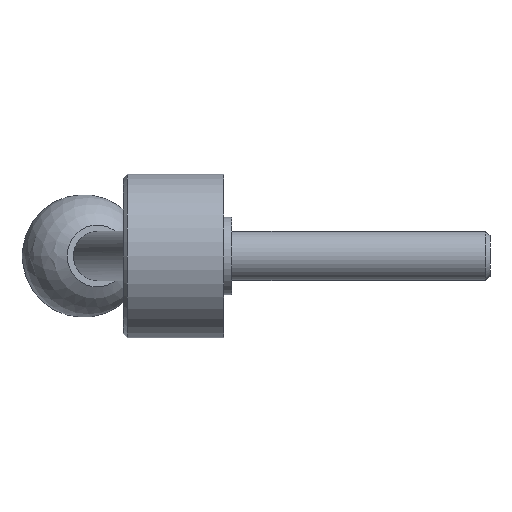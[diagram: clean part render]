
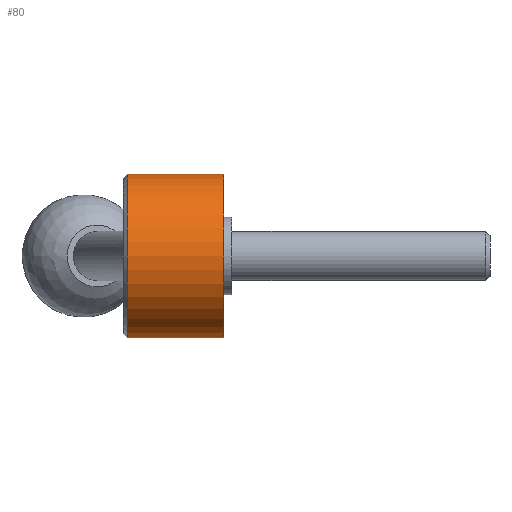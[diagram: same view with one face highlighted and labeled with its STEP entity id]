
A CAD part, left-side view. The second image highlights one B-rep face of the part: STEP entity #80.
In plain terms, the highlighted cylindrical face has radius 20 mm (diameter 40 mm), a full revolution.
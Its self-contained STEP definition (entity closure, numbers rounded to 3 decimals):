
#80 = ADVANCED_FACE( '', ( #106, #107, #108 ), #109, .T. );
#106 = FACE_OUTER_BOUND( '', #150, .T. );
#107 = FACE_BOUND( '', #151, .T. );
#108 = FACE_OUTER_BOUND( '', #152, .T. );
#109 = CYLINDRICAL_SURFACE( '', #153, 20. );
#150 = EDGE_LOOP( '', ( #204 ) );
#151 = EDGE_LOOP( '', ( #205 ) );
#152 = EDGE_LOOP( '', ( #206 ) );
#153 = AXIS2_PLACEMENT_3D( '', #207, #208, #209 );
#204 = ORIENTED_EDGE( '', *, *, #258, .F. );
#205 = ORIENTED_EDGE( '', *, *, #259, .F. );
#206 = ORIENTED_EDGE( '', *, *, #260, .T. );
#207 = CARTESIAN_POINT( '', ( 0., 0., 0. ) );
#208 = DIRECTION( '', ( 0., 1., 0. ) );
#209 = DIRECTION( '', ( 0., 0., -1. ) );
#258 = EDGE_CURVE( '', #278, #278, #279, .T. );
#259 = EDGE_CURVE( '', #280, #280, #281, .T. );
#260 = EDGE_CURVE( '', #282, #282, #283, .T. );
#278 = VERTEX_POINT( '', #306 );
#279 = CIRCLE( '', #307, 20. );
#280 = VERTEX_POINT( '', #308 );
#281 = B_SPLINE_CURVE_WITH_KNOTS( '', 3, ( #309, #310, #311, #312, #313, #314, #315, #316, #317, #318, #319, #320, #321, #322, #323, #324, #325, #326, #327, #328, #329, #330, #331, #332, #333, #334, #335, #336, #337, #338, #339, #340, #341, #342, #343, #344, #345, #346, #347, #348, #349, #350, #351, #352, #353, #354, #355, #356, #357, #358, #359, #360, #361, #362, #363, #364, #365, #366, #367, #368, #369, #370, #371, #372, #373, #374, #375, #376, #377, #378, #379, #380, #381, #382, #383, #384, #385, #386, #387, #388, #389, #390, #391, #392 ), .UNSPECIFIED., .T., .F., ( 2, 2, 2, 2, 2, 2, 2, 2, 2, 2, 2, 2, 2, 2, 2, 2, 2, 2, 2, 2, 2, 2, 2, 2, 2, 2, 2, 2, 2, 2, 2, 2, 2, 2, 2, 2, 2, 2, 2, 2, 2, 2, 2, 2 ), ( -0.001, 0., 0.001, 0.002, 0.002, 0.004, 0.004, 0.005, 0.006, 0.007, 0.008, 0.008, 0.009, 0.011, 0.012, 0.013, 0.014, 0.014, 0.015, 0.017, 0.018, 0.018, 0.019, 0.02, 0.021, 0.022, 0.024, 0.024, 0.025, 0.026, 0.027, 0.028, 0.028, 0.029, 0.03, 0.031, 0.032, 0.033, 0.034, 0.034, 0.035, 0.037, 0.038, 0.039 ), .UNSPECIFIED. );
#282 = VERTEX_POINT( '', #393 );
#283 = CIRCLE( '', #394, 20. );
#306 = CARTESIAN_POINT( '', ( 0., 2., -20. ) );
#307 = AXIS2_PLACEMENT_3D( '', #422, #423, #424 );
#308 = CARTESIAN_POINT( '', ( 19.079, 16., 6. ) );
#309 = CARTESIAN_POINT( '', ( 19.079, 16.399, 6. ) );
#310 = CARTESIAN_POINT( '', ( 19.079, 15.601, 6. ) );
#311 = CARTESIAN_POINT( '', ( 19.091, 15.209, 5.961 ) );
#312 = CARTESIAN_POINT( '', ( 19.127, 14.632, 5.845 ) );
#313 = CARTESIAN_POINT( '', ( 19.141, 14.441, 5.797 ) );
#314 = CARTESIAN_POINT( '', ( 19.176, 14.063, 5.682 ) );
#315 = CARTESIAN_POINT( '', ( 19.196, 13.876, 5.615 ) );
#316 = CARTESIAN_POINT( '', ( 19.261, 13.332, 5.388 ) );
#317 = CARTESIAN_POINT( '', ( 19.312, 12.988, 5.204 ) );
#318 = CARTESIAN_POINT( '', ( 19.396, 12.5, 4.878 ) );
#319 = CARTESIAN_POINT( '', ( 19.426, 12.342, 4.76 ) );
#320 = CARTESIAN_POINT( '', ( 19.485, 12.039, 4.511 ) );
#321 = CARTESIAN_POINT( '', ( 19.515, 11.894, 4.38 ) );
#322 = CARTESIAN_POINT( '', ( 19.605, 11.482, 3.967 ) );
#323 = CARTESIAN_POINT( '', ( 19.664, 11.234, 3.667 ) );
#324 = CARTESIAN_POINT( '', ( 19.775, 10.796, 3.011 ) );
#325 = CARTESIAN_POINT( '', ( 19.825, 10.611, 2.666 ) );
#326 = CARTESIAN_POINT( '', ( 19.888, 10.386, 2.125 ) );
#327 = CARTESIAN_POINT( '', ( 19.906, 10.319, 1.941 ) );
#328 = CARTESIAN_POINT( '', ( 19.94, 10.204, 1.564 ) );
#329 = CARTESIAN_POINT( '', ( 19.954, 10.155, 1.37 ) );
#330 = CARTESIAN_POINT( '', ( 19.988, 10.039, 0.789 ) );
#331 = CARTESIAN_POINT( '', ( 20., 10., 0.398 ) );
#332 = CARTESIAN_POINT( '', ( 20., 10., -0.39 ) );
#333 = CARTESIAN_POINT( '', ( 19.988, 10.039, -0.79 ) );
#334 = CARTESIAN_POINT( '', ( 19.943, 10.193, -1.562 ) );
#335 = CARTESIAN_POINT( '', ( 19.909, 10.308, -1.937 ) );
#336 = CARTESIAN_POINT( '', ( 19.825, 10.611, -2.666 ) );
#337 = CARTESIAN_POINT( '', ( 19.774, 10.797, -3.014 ) );
#338 = CARTESIAN_POINT( '', ( 19.692, 11.122, -3.499 ) );
#339 = CARTESIAN_POINT( '', ( 19.664, 11.239, -3.656 ) );
#340 = CARTESIAN_POINT( '', ( 19.605, 11.487, -3.958 ) );
#341 = CARTESIAN_POINT( '', ( 19.575, 11.62, -4.105 ) );
#342 = CARTESIAN_POINT( '', ( 19.485, 12.035, -4.52 ) );
#343 = CARTESIAN_POINT( '', ( 19.425, 12.335, -4.767 ) );
#344 = CARTESIAN_POINT( '', ( 19.313, 12.983, -5.201 ) );
#345 = CARTESIAN_POINT( '', ( 19.261, 13.335, -5.39 ) );
#346 = CARTESIAN_POINT( '', ( 19.174, 14.058, -5.69 ) );
#347 = CARTESIAN_POINT( '', ( 19.139, 14.432, -5.805 ) );
#348 = CARTESIAN_POINT( '', ( 19.103, 15.013, -5.921 ) );
#349 = CARTESIAN_POINT( '', ( 19.094, 15.211, -5.951 ) );
#350 = CARTESIAN_POINT( '', ( 19.082, 15.604, -5.99 ) );
#351 = CARTESIAN_POINT( '', ( 19.079, 15.801, -6. ) );
#352 = CARTESIAN_POINT( '', ( 19.079, 16.39, -6. ) );
#353 = CARTESIAN_POINT( '', ( 19.091, 16.784, -5.962 ) );
#354 = CARTESIAN_POINT( '', ( 19.139, 17.564, -5.806 ) );
#355 = CARTESIAN_POINT( '', ( 19.174, 17.939, -5.692 ) );
#356 = CARTESIAN_POINT( '', ( 19.26, 18.662, -5.391 ) );
#357 = CARTESIAN_POINT( '', ( 19.313, 19.013, -5.203 ) );
#358 = CARTESIAN_POINT( '', ( 19.424, 19.662, -4.769 ) );
#359 = CARTESIAN_POINT( '', ( 19.484, 19.963, -4.522 ) );
#360 = CARTESIAN_POINT( '', ( 19.574, 20.379, -4.107 ) );
#361 = CARTESIAN_POINT( '', ( 19.605, 20.512, -3.96 ) );
#362 = CARTESIAN_POINT( '', ( 19.663, 20.76, -3.658 ) );
#363 = CARTESIAN_POINT( '', ( 19.692, 20.876, -3.502 ) );
#364 = CARTESIAN_POINT( '', ( 19.774, 21.201, -3.017 ) );
#365 = CARTESIAN_POINT( '', ( 19.824, 21.387, -2.672 ) );
#366 = CARTESIAN_POINT( '', ( 19.909, 21.691, -1.94 ) );
#367 = CARTESIAN_POINT( '', ( 19.942, 21.806, -1.565 ) );
#368 = CARTESIAN_POINT( '', ( 19.977, 21.921, -0.988 ) );
#369 = CARTESIAN_POINT( '', ( 19.985, 21.951, -0.794 ) );
#370 = CARTESIAN_POINT( '', ( 19.997, 21.99, -0.399 ) );
#371 = CARTESIAN_POINT( '', ( 20., 22., -0.199 ) );
#372 = CARTESIAN_POINT( '', ( 20., 22., 0.394 ) );
#373 = CARTESIAN_POINT( '', ( 19.988, 21.961, 0.785 ) );
#374 = CARTESIAN_POINT( '', ( 19.954, 21.846, 1.365 ) );
#375 = CARTESIAN_POINT( '', ( 19.94, 21.798, 1.558 ) );
#376 = CARTESIAN_POINT( '', ( 19.907, 21.682, 1.937 ) );
#377 = CARTESIAN_POINT( '', ( 19.888, 21.616, 2.122 ) );
#378 = CARTESIAN_POINT( '', ( 19.825, 21.39, 2.664 ) );
#379 = CARTESIAN_POINT( '', ( 19.775, 21.206, 3.009 ) );
#380 = CARTESIAN_POINT( '', ( 19.664, 20.767, 3.665 ) );
#381 = CARTESIAN_POINT( '', ( 19.605, 20.519, 3.966 ) );
#382 = CARTESIAN_POINT( '', ( 19.515, 20.107, 4.379 ) );
#383 = CARTESIAN_POINT( '', ( 19.485, 19.962, 4.51 ) );
#384 = CARTESIAN_POINT( '', ( 19.426, 19.659, 4.759 ) );
#385 = CARTESIAN_POINT( '', ( 19.397, 19.501, 4.877 ) );
#386 = CARTESIAN_POINT( '', ( 19.313, 19.013, 5.204 ) );
#387 = CARTESIAN_POINT( '', ( 19.261, 18.669, 5.388 ) );
#388 = CARTESIAN_POINT( '', ( 19.174, 17.946, 5.689 ) );
#389 = CARTESIAN_POINT( '', ( 19.139, 17.563, 5.806 ) );
#390 = CARTESIAN_POINT( '', ( 19.091, 16.791, 5.961 ) );
#391 = CARTESIAN_POINT( '', ( 19.079, 16.399, 6. ) );
#392 = CARTESIAN_POINT( '', ( 19.079, 15.601, 6. ) );
#393 = CARTESIAN_POINT( '', ( 0., 25.5, -20. ) );
#394 = AXIS2_PLACEMENT_3D( '', #425, #426, #427 );
#422 = CARTESIAN_POINT( '', ( 0., 2., 0. ) );
#423 = DIRECTION( '', ( 0., -1., 0. ) );
#424 = DIRECTION( '', ( 0., 0., -1. ) );
#425 = CARTESIAN_POINT( '', ( 0., 25.5, 0. ) );
#426 = DIRECTION( '', ( 0., -1., 0. ) );
#427 = DIRECTION( '', ( 0., 0., -1. ) );
